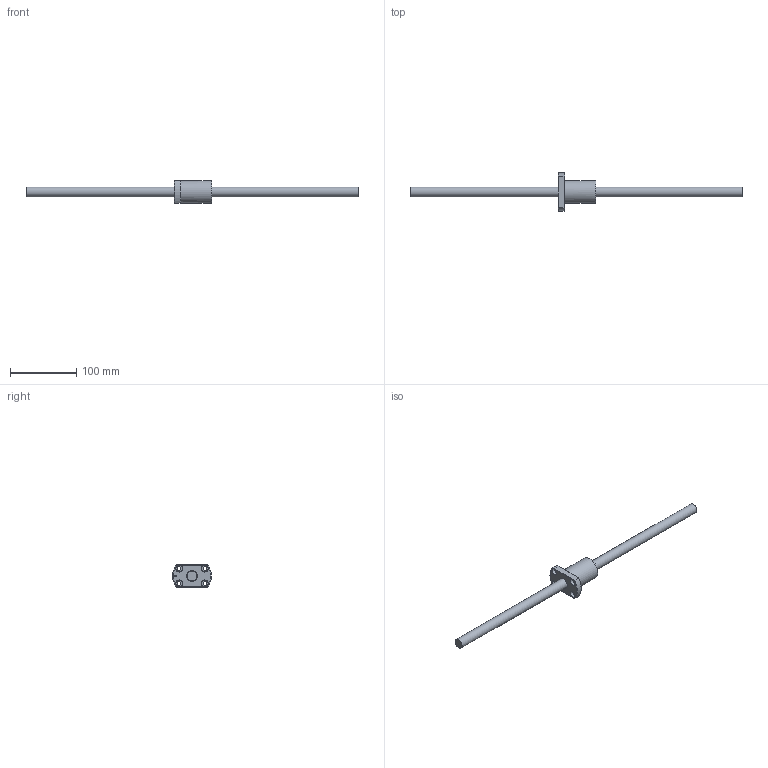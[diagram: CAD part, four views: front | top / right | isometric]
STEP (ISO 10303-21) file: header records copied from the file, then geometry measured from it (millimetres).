
FILE_DESCRIPTION (( 'STEP AP203' ), '1' );
FILE_NAME ('SFV01510D-2.7.step', '2024-05-20T03:37:02', ( '' ), ( '' ), 'SwSTEP 2.0', 'SolidWorks 2022', '' );
FILE_SCHEMA (( 'CONFIG_CONTROL_DESIGN' ));
Length unit declared in the file: millimetre
Products named in the file (1): SFV01510D-2.7
Bounding box: 500 x 58 x 34 mm (x, y, z)
Volume: 134598.5 mm3; surface area: 37743 mm2
Topology: 2 solids, 2 shells, 59 faces, 149 edges, 94 vertices
Faces by surface type: cylinder 21, plane 19, cone 9, torus 5, bspline 5
Full cylindrical faces by diameter (mm): 4 x1, 5 x6, 5.5 x4, 9.5 x4, 15 x1, 16.7 x1, 34 x1
Entity records: 3247 total; most frequent: CARTESIAN_POINT 2118, DIRECTION 206, ORIENTED_EDGE 192, EDGE_CURVE 96, AXIS2_PLACEMENT_3D 91, EDGE_LOOP 88, VERTEX_POINT 72, FACE_OUTER_BOUND 67
